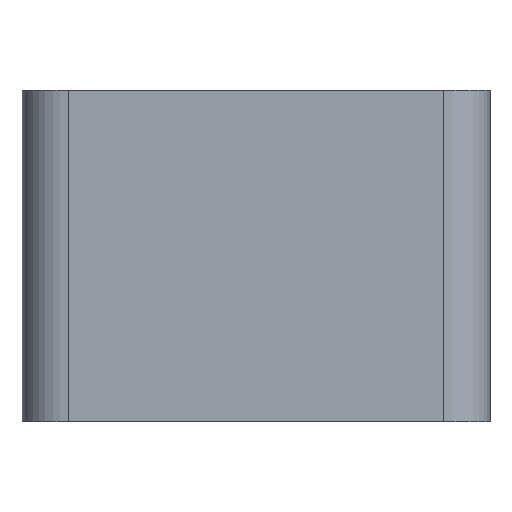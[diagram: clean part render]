
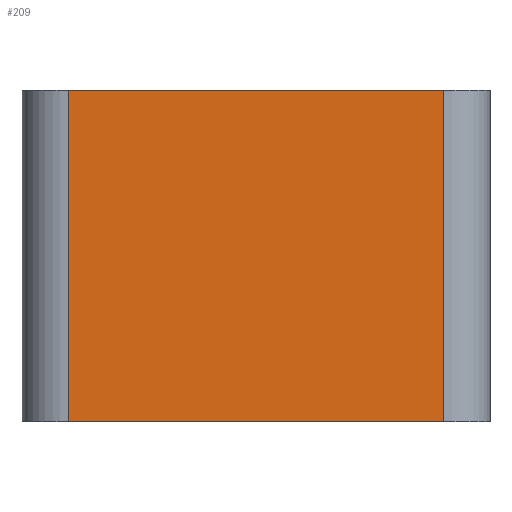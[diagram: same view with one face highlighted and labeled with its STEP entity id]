
A CAD part, left-side view. The second image highlights one B-rep face of the part: STEP entity #209.
In plain terms, the highlighted planar face has unit normal (-1, 0, 0).
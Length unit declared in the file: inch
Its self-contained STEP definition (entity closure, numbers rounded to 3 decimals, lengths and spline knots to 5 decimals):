
#32 = EDGE_LOOP ( 'NONE', ( #33, #184, #187, #190 ) ) ;
#33 = ORIENTED_EDGE ( 'NONE', *, *, #34, .T. ) ;
#34 = EDGE_CURVE ( 'NONE', #35, #36, #236, .T. ) ;
#35 = VERTEX_POINT ( 'NONE', #232 ) ;
#36 = VERTEX_POINT ( 'NONE', #231 ) ;
#184 = ORIENTED_EDGE ( 'NONE', *, *, #185, .T. ) ;
#185 = EDGE_CURVE ( 'NONE', #36, #186, #447, .T. ) ;
#186 = VERTEX_POINT ( 'NONE', #443 ) ;
#187 = ORIENTED_EDGE ( 'NONE', *, *, #188, .F. ) ;
#188 = EDGE_CURVE ( 'NONE', #189, #186, #442, .T. ) ;
#189 = VERTEX_POINT ( 'NONE', #438 ) ;
#190 = ORIENTED_EDGE ( 'NONE', *, *, #191, .T. ) ;
#191 = EDGE_CURVE ( 'NONE', #189, #35, #437, .T. ) ;
#209 = ADVANCED_FACE ( 'NONE', ( #278 ), #277, .F. ) ;
#231 = CARTESIAN_POINT ( 'NONE',  ( -0.765, 0.175, -0.625 ) ) ;
#232 = CARTESIAN_POINT ( 'NONE',  ( -0.765, 1.589, -0.625 ) ) ;
#233 = DIRECTION ( 'NONE',  ( 0., -1., 0. ) ) ;
#234 = VECTOR ( 'NONE', #233, 39.37008 ) ;
#235 = CARTESIAN_POINT ( 'NONE',  ( -0.765, 1.764, -0.625 ) ) ;
#236 = LINE ( 'NONE', #235, #234 ) ;
#272 = DIRECTION ( 'NONE',  ( 0., 1., 0. ) ) ;
#273 = DIRECTION ( 'NONE',  ( 1., 0., 0. ) ) ;
#274 = CARTESIAN_POINT ( 'NONE',  ( -0.765, 1.764, 0.625 ) ) ;
#276 = AXIS2_PLACEMENT_3D ( 'NONE', #274, #273, #272 ) ;
#277 = PLANE ( 'NONE',  #276 ) ;
#278 = FACE_OUTER_BOUND ( 'NONE', #32, .T. ) ;
#434 = DIRECTION ( 'NONE',  ( 0., 0., -1. ) ) ;
#435 = VECTOR ( 'NONE', #434, 39.37008 ) ;
#436 = CARTESIAN_POINT ( 'NONE',  ( -0.765, 1.589, 0.625 ) ) ;
#437 = LINE ( 'NONE', #436, #435 ) ;
#438 = CARTESIAN_POINT ( 'NONE',  ( -0.765, 1.589, 0.625 ) ) ;
#439 = DIRECTION ( 'NONE',  ( 0., -1., 0. ) ) ;
#440 = VECTOR ( 'NONE', #439, 39.37008 ) ;
#441 = CARTESIAN_POINT ( 'NONE',  ( -0.765, 1.764, 0.625 ) ) ;
#442 = LINE ( 'NONE', #441, #440 ) ;
#443 = CARTESIAN_POINT ( 'NONE',  ( -0.765, 0.175, 0.625 ) ) ;
#444 = DIRECTION ( 'NONE',  ( 0., 0., 1. ) ) ;
#445 = VECTOR ( 'NONE', #444, 39.37008 ) ;
#446 = CARTESIAN_POINT ( 'NONE',  ( -0.765, 0.175, 0.625 ) ) ;
#447 = LINE ( 'NONE', #446, #445 ) ;
